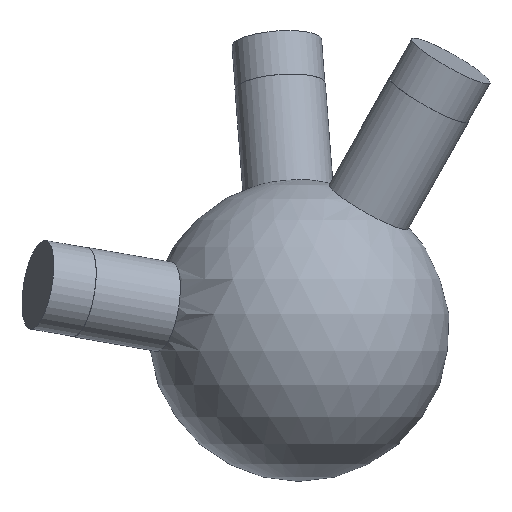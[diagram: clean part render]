
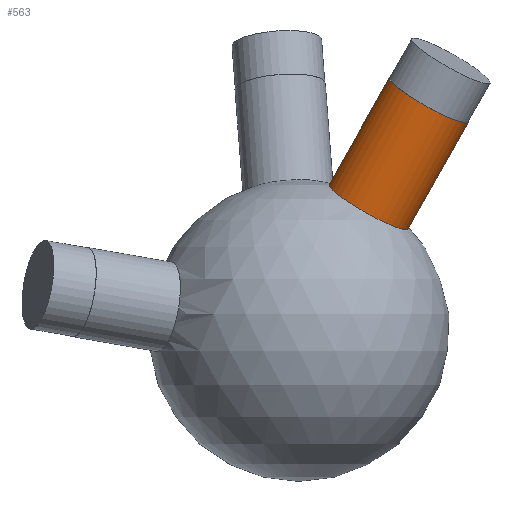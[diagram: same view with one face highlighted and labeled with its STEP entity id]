
A CAD part, left-side view. The second image highlights one B-rep face of the part: STEP entity #563.
In plain terms, the highlighted cylindrical face has radius 6 mm (diameter 12 mm), a full revolution.
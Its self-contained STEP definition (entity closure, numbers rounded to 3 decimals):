
#33 = SPHERICAL_SURFACE('',#34,20.);
#34 = AXIS2_PLACEMENT_3D('',#35,#36,#37);
#35 = CARTESIAN_POINT('',(0.,0.,0.));
#36 = DIRECTION('',(0.,0.,1.));
#37 = DIRECTION('',(1.,0.,-0.));
#334 = EDGE_CURVE('',#335,#335,#337,.T.);
#335 = VERTEX_POINT('',#336);
#336 = CARTESIAN_POINT('',(-2.867,-4.042,
    19.376));
#337 = SURFACE_CURVE('',#338,(#343,#440),.PCURVE_S1.);
#338 = CIRCLE('',#339,6.);
#339 = AXIS2_PLACEMENT_3D('',#340,#341,#342);
#340 = CARTESIAN_POINT('',(-2.867,-9.268,
    16.428));
#341 = DIRECTION('',(-0.15,-0.486,0.861));
#342 = DIRECTION('',(0.,-0.871,-0.491)
  );
#343 = PCURVE('',#33,#344);
#344 = DEFINITIONAL_REPRESENTATION('',(#345),#439);
#345 = B_SPLINE_CURVE_WITH_KNOTS('',8,(#346,#347,#348,#349,#350,#351,
    #352,#353,#354,#355,#356,#357,#358,#359,#360,#361,#362,#363,#364,
    #365,#366,#367,#368,#369,#370,#371,#372,#373,#374,#375,#376,#377,
    #378,#379,#380,#381,#382,#383,#384,#385,#386,#387,#388,#389,#390,
    #391,#392,#393,#394,#395,#396,#397,#398,#399,#400,#401,#402,#403,
    #404,#405,#406,#407,#408,#409,#410,#411,#412,#413,#414,#415,#416,
    #417,#418,#419,#420,#421,#422,#423,#424,#425,#426,#427,#428,#429,
    #430,#431,#432,#433,#434,#435,#436,#437,#438),.UNSPECIFIED.,.T.,.F.,
  (9,7,7,7,7,7,7,7,7,7,7,7,7,9),(3.142,3.338,
    3.718,4.075,4.744,5.914,
    6.792,7.45,7.944,8.314,
    8.592,9.008,9.216,9.425),
  .UNSPECIFIED.);
#346 = CARTESIAN_POINT('',(4.095,1.32));
#347 = CARTESIAN_POINT('',(4.07,1.317));
#348 = CARTESIAN_POINT('',(4.046,1.312));
#349 = CARTESIAN_POINT('',(4.024,1.308));
#350 = CARTESIAN_POINT('',(4.002,1.303));
#351 = CARTESIAN_POINT('',(3.983,1.298));
#352 = CARTESIAN_POINT('',(3.964,1.292));
#353 = CARTESIAN_POINT('',(3.947,1.287));
#354 = CARTESIAN_POINT('',(3.9,1.27));
#355 = CARTESIAN_POINT('',(3.874,1.258));
#356 = CARTESIAN_POINT('',(3.852,1.245));
#357 = CARTESIAN_POINT('',(3.834,1.232));
#358 = CARTESIAN_POINT('',(3.819,1.219));
#359 = CARTESIAN_POINT('',(3.808,1.205));
#360 = CARTESIAN_POINT('',(3.799,1.191));
#361 = CARTESIAN_POINT('',(3.786,1.164));
#362 = CARTESIAN_POINT('',(3.782,1.151));
#363 = CARTESIAN_POINT('',(3.78,1.137));
#364 = CARTESIAN_POINT('',(3.78,1.124));
#365 = CARTESIAN_POINT('',(3.781,1.111));
#366 = CARTESIAN_POINT('',(3.783,1.097));
#367 = CARTESIAN_POINT('',(3.787,1.084));
#368 = CARTESIAN_POINT('',(3.8,1.046));
#369 = CARTESIAN_POINT('',(3.813,1.022));
#370 = CARTESIAN_POINT('',(3.828,0.998));
#371 = CARTESIAN_POINT('',(3.846,0.975));
#372 = CARTESIAN_POINT('',(3.867,0.952));
#373 = CARTESIAN_POINT('',(3.889,0.931));
#374 = CARTESIAN_POINT('',(3.913,0.91));
#375 = CARTESIAN_POINT('',(3.982,0.857));
#376 = CARTESIAN_POINT('',(4.031,0.826));
#377 = CARTESIAN_POINT('',(4.082,0.799));
#378 = CARTESIAN_POINT('',(4.137,0.777));
#379 = CARTESIAN_POINT('',(4.193,0.759));
#380 = CARTESIAN_POINT('',(4.251,0.745));
#381 = CARTESIAN_POINT('',(4.31,0.737));
#382 = CARTESIAN_POINT('',(4.413,0.731));
#383 = CARTESIAN_POINT('',(4.457,0.732));
#384 = CARTESIAN_POINT('',(4.501,0.735));
#385 = CARTESIAN_POINT('',(4.545,0.741));
#386 = CARTESIAN_POINT('',(4.589,0.75));
#387 = CARTESIAN_POINT('',(4.632,0.761));
#388 = CARTESIAN_POINT('',(4.673,0.775));
#389 = CARTESIAN_POINT('',(4.744,0.804));
#390 = CARTESIAN_POINT('',(4.774,0.818));
#391 = CARTESIAN_POINT('',(4.803,0.833));
#392 = CARTESIAN_POINT('',(4.831,0.85));
#393 = CARTESIAN_POINT('',(4.857,0.867));
#394 = CARTESIAN_POINT('',(4.883,0.886));
#395 = CARTESIAN_POINT('',(4.907,0.906));
#396 = CARTESIAN_POINT('',(4.946,0.942));
#397 = CARTESIAN_POINT('',(4.962,0.958));
#398 = CARTESIAN_POINT('',(4.977,0.975));
#399 = CARTESIAN_POINT('',(4.991,0.992));
#400 = CARTESIAN_POINT('',(5.003,1.009));
#401 = CARTESIAN_POINT('',(5.014,1.027));
#402 = CARTESIAN_POINT('',(5.023,1.045));
#403 = CARTESIAN_POINT('',(5.036,1.076));
#404 = CARTESIAN_POINT('',(5.04,1.09));
#405 = CARTESIAN_POINT('',(5.043,1.104));
#406 = CARTESIAN_POINT('',(5.045,1.118));
#407 = CARTESIAN_POINT('',(5.045,1.132));
#408 = CARTESIAN_POINT('',(5.043,1.146));
#409 = CARTESIAN_POINT('',(5.04,1.16));
#410 = CARTESIAN_POINT('',(5.03,1.184));
#411 = CARTESIAN_POINT('',(5.024,1.194));
#412 = CARTESIAN_POINT('',(5.017,1.204));
#413 = CARTESIAN_POINT('',(5.009,1.214));
#414 = CARTESIAN_POINT('',(4.999,1.224));
#415 = CARTESIAN_POINT('',(4.987,1.233));
#416 = CARTESIAN_POINT('',(4.974,1.243));
#417 = CARTESIAN_POINT('',(4.934,1.266));
#418 = CARTESIAN_POINT('',(4.906,1.279));
#419 = CARTESIAN_POINT('',(4.872,1.291));
#420 = CARTESIAN_POINT('',(4.832,1.303));
#421 = CARTESIAN_POINT('',(4.786,1.313));
#422 = CARTESIAN_POINT('',(4.734,1.322));
#423 = CARTESIAN_POINT('',(4.675,1.329));
#424 = CARTESIAN_POINT('',(4.581,1.337));
#425 = CARTESIAN_POINT('',(4.549,1.339));
#426 = CARTESIAN_POINT('',(4.516,1.341));
#427 = CARTESIAN_POINT('',(4.481,1.342));
#428 = CARTESIAN_POINT('',(4.447,1.342));
#429 = CARTESIAN_POINT('',(4.412,1.342));
#430 = CARTESIAN_POINT('',(4.378,1.342));
#431 = CARTESIAN_POINT('',(4.31,1.34));
#432 = CARTESIAN_POINT('',(4.276,1.339));
#433 = CARTESIAN_POINT('',(4.243,1.337));
#434 = CARTESIAN_POINT('',(4.211,1.334));
#435 = CARTESIAN_POINT('',(4.18,1.332));
#436 = CARTESIAN_POINT('',(4.15,1.328));
#437 = CARTESIAN_POINT('',(4.122,1.325));
#438 = CARTESIAN_POINT('',(4.095,1.32));
#439 = ( GEOMETRIC_REPRESENTATION_CONTEXT(2) 
PARAMETRIC_REPRESENTATION_CONTEXT() REPRESENTATION_CONTEXT('2D SPACE',''
  ) );
#440 = PCURVE('',#441,#446);
#441 = CYLINDRICAL_SURFACE('',#442,6.);
#442 = AXIS2_PLACEMENT_3D('',#443,#444,#445);
#443 = CARTESIAN_POINT('',(0.,0.,0.));
#444 = DIRECTION('',(-0.15,-0.486,0.861));
#445 = DIRECTION('',(0.,0.871,0.491));
#446 = DEFINITIONAL_REPRESENTATION('',(#447),#451);
#447 = LINE('',#448,#449);
#448 = CARTESIAN_POINT('',(-3.142,19.079));
#449 = VECTOR('',#450,1.);
#450 = DIRECTION('',(1.,0.));
#451 = ( GEOMETRIC_REPRESENTATION_CONTEXT(2) 
PARAMETRIC_REPRESENTATION_CONTEXT() REPRESENTATION_CONTEXT('2D SPACE',''
  ) );
#563 = ADVANCED_FACE('',(#564),#441,.T.);
#564 = FACE_BOUND('',#565,.T.);
#565 = EDGE_LOOP('',(#566,#589,#616,#617));
#566 = ORIENTED_EDGE('',*,*,#567,.T.);
#567 = EDGE_CURVE('',#335,#568,#570,.T.);
#568 = VERTEX_POINT('',#569);
#569 = CARTESIAN_POINT('',(-5.334,-12.016,
    33.511));
#570 = SEAM_CURVE('',#571,(#575,#582),.PCURVE_S1.);
#571 = LINE('',#572,#573);
#572 = CARTESIAN_POINT('',(0.,5.226,
    2.948));
#573 = VECTOR('',#574,1.);
#574 = DIRECTION('',(-0.15,-0.486,0.861));
#575 = PCURVE('',#441,#576);
#576 = DEFINITIONAL_REPRESENTATION('',(#577),#581);
#577 = LINE('',#578,#579);
#578 = CARTESIAN_POINT('',(6.283,-0.));
#579 = VECTOR('',#580,1.);
#580 = DIRECTION('',(0.,1.));
#581 = ( GEOMETRIC_REPRESENTATION_CONTEXT(2) 
PARAMETRIC_REPRESENTATION_CONTEXT() REPRESENTATION_CONTEXT('2D SPACE',''
  ) );
#582 = PCURVE('',#441,#583);
#583 = DEFINITIONAL_REPRESENTATION('',(#584),#588);
#584 = LINE('',#585,#586);
#585 = CARTESIAN_POINT('',(0.,-0.));
#586 = VECTOR('',#587,1.);
#587 = DIRECTION('',(0.,1.));
#588 = ( GEOMETRIC_REPRESENTATION_CONTEXT(2) 
PARAMETRIC_REPRESENTATION_CONTEXT() REPRESENTATION_CONTEXT('2D SPACE',''
  ) );
#589 = ORIENTED_EDGE('',*,*,#590,.F.);
#590 = EDGE_CURVE('',#568,#568,#591,.T.);
#591 = SURFACE_CURVE('',#592,(#597,#604),.PCURVE_S1.);
#592 = CIRCLE('',#593,6.);
#593 = AXIS2_PLACEMENT_3D('',#594,#595,#596);
#594 = CARTESIAN_POINT('',(-5.334,-17.242,30.563
    ));
#595 = DIRECTION('',(-0.15,-0.486,0.861));
#596 = DIRECTION('',(0.,0.871,0.491));
#597 = PCURVE('',#441,#598);
#598 = DEFINITIONAL_REPRESENTATION('',(#599),#603);
#599 = LINE('',#600,#601);
#600 = CARTESIAN_POINT('',(0.,35.494));
#601 = VECTOR('',#602,1.);
#602 = DIRECTION('',(1.,0.));
#603 = ( GEOMETRIC_REPRESENTATION_CONTEXT(2) 
PARAMETRIC_REPRESENTATION_CONTEXT() REPRESENTATION_CONTEXT('2D SPACE',''
  ) );
#604 = PCURVE('',#605,#610);
#605 = PLANE('',#606);
#606 = AXIS2_PLACEMENT_3D('',#607,#608,#609);
#607 = CARTESIAN_POINT('',(-5.334,-17.242,30.563
    ));
#608 = DIRECTION('',(-0.15,-0.486,0.861));
#609 = DIRECTION('',(0.,0.871,0.491));
#610 = DEFINITIONAL_REPRESENTATION('',(#611),#615);
#611 = CIRCLE('',#612,6.);
#612 = AXIS2_PLACEMENT_2D('',#613,#614);
#613 = CARTESIAN_POINT('',(0.,0.));
#614 = DIRECTION('',(1.,0.));
#615 = ( GEOMETRIC_REPRESENTATION_CONTEXT(2) 
PARAMETRIC_REPRESENTATION_CONTEXT() REPRESENTATION_CONTEXT('2D SPACE',''
  ) );
#616 = ORIENTED_EDGE('',*,*,#567,.F.);
#617 = ORIENTED_EDGE('',*,*,#334,.T.);
